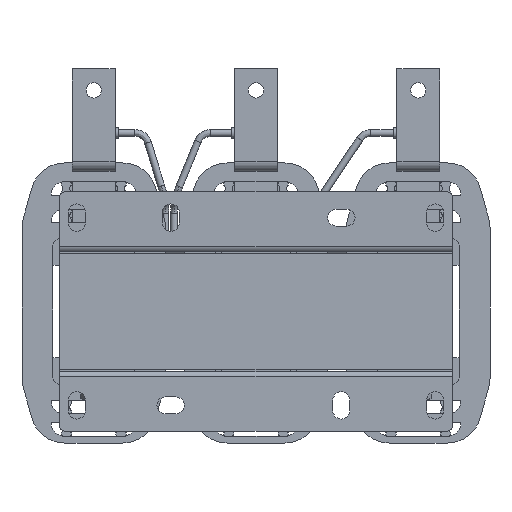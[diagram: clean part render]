
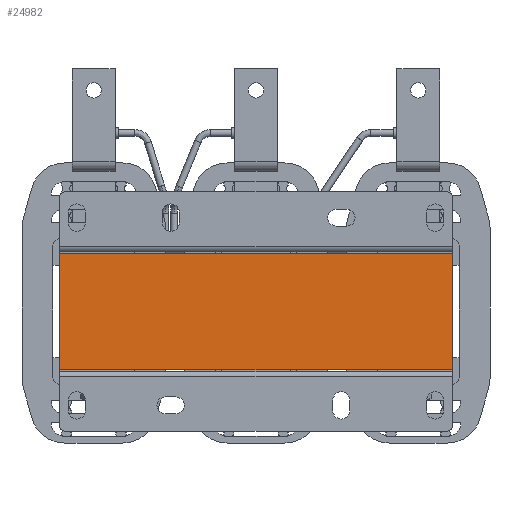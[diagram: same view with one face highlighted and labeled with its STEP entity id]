
A CAD part, front view. The second image highlights one B-rep face of the part: STEP entity #24982.
In plain terms, the highlighted planar face has unit normal (0, -1, 0).
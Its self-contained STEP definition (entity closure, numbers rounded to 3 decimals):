
#1708 = VERTEX_POINT ( 'NONE', #35311 ) ;
#3509 = CARTESIAN_POINT ( 'NONE',  ( -115., -100., 68. ) ) ;
#3528 = VECTOR ( 'NONE', #29799, 1000. ) ;
#5556 = EDGE_CURVE ( 'NONE', #1708, #6436, #38052, .T. ) ;
#6265 = VECTOR ( 'NONE', #18230, 1000. ) ;
#6436 = VERTEX_POINT ( 'NONE', #3509 ) ;
#6446 = CARTESIAN_POINT ( 'NONE',  ( 115., -100., 0. ) ) ;
#6687 = VERTEX_POINT ( 'NONE', #6446 ) ;
#7445 = DIRECTION ( 'NONE',  ( -1., 0., 0. ) ) ;
#8382 = CARTESIAN_POINT ( 'NONE',  ( -115., -100., 68. ) ) ;
#8866 = CARTESIAN_POINT ( 'NONE',  ( 0., -100., 0. ) ) ;
#9212 = EDGE_CURVE ( 'NONE', #1708, #6687, #11924, .T. ) ;
#9370 = ORIENTED_EDGE ( 'NONE', *, *, #5556, .F. ) ;
#11887 = VERTEX_POINT ( 'NONE', #18745 ) ;
#11924 = LINE ( 'NONE', #8866, #6265 ) ;
#13676 = AXIS2_PLACEMENT_3D ( 'NONE', #38406, #22929, #7445 ) ;
#16576 = ORIENTED_EDGE ( 'NONE', *, *, #18691, .F. ) ;
#18133 = LINE ( 'NONE', #30572, #3528 ) ;
#18230 = DIRECTION ( 'NONE',  ( 1., 0., 0. ) ) ;
#18691 = EDGE_CURVE ( 'NONE', #6436, #11887, #26938, .T. ) ;
#18745 = CARTESIAN_POINT ( 'NONE',  ( 115., -100., 68. ) ) ;
#19298 = CARTESIAN_POINT ( 'NONE',  ( -115., -100., 68. ) ) ;
#21063 = ORIENTED_EDGE ( 'NONE', *, *, #9212, .T. ) ;
#22726 = FACE_OUTER_BOUND ( 'NONE', #35303, .T. ) ;
#22929 = DIRECTION ( 'NONE',  ( 0., 1., 0. ) ) ;
#24982 = ADVANCED_FACE ( 'NONE', ( #22726 ), #35138, .F. ) ;
#26938 = LINE ( 'NONE', #8382, #28481 ) ;
#28481 = VECTOR ( 'NONE', #36294, 1000. ) ;
#29799 = DIRECTION ( 'NONE',  ( 0., 0., 1. ) ) ;
#30572 = CARTESIAN_POINT ( 'NONE',  ( 115., -100., 68. ) ) ;
#32517 = VECTOR ( 'NONE', #34812, 1000. ) ;
#34701 = ORIENTED_EDGE ( 'NONE', *, *, #36880, .T. ) ;
#34812 = DIRECTION ( 'NONE',  ( 0., 0., 1. ) ) ;
#35138 = PLANE ( 'NONE',  #13676 ) ;
#35303 = EDGE_LOOP ( 'NONE', ( #34701, #16576, #9370, #21063 ) ) ;
#35311 = CARTESIAN_POINT ( 'NONE',  ( -115., -100., 0. ) ) ;
#36294 = DIRECTION ( 'NONE',  ( 1., 0., 0. ) ) ;
#36880 = EDGE_CURVE ( 'NONE', #6687, #11887, #18133, .T. ) ;
#38052 = LINE ( 'NONE', #19298, #32517 ) ;
#38406 = CARTESIAN_POINT ( 'NONE',  ( -115., -100., 68. ) ) ;
